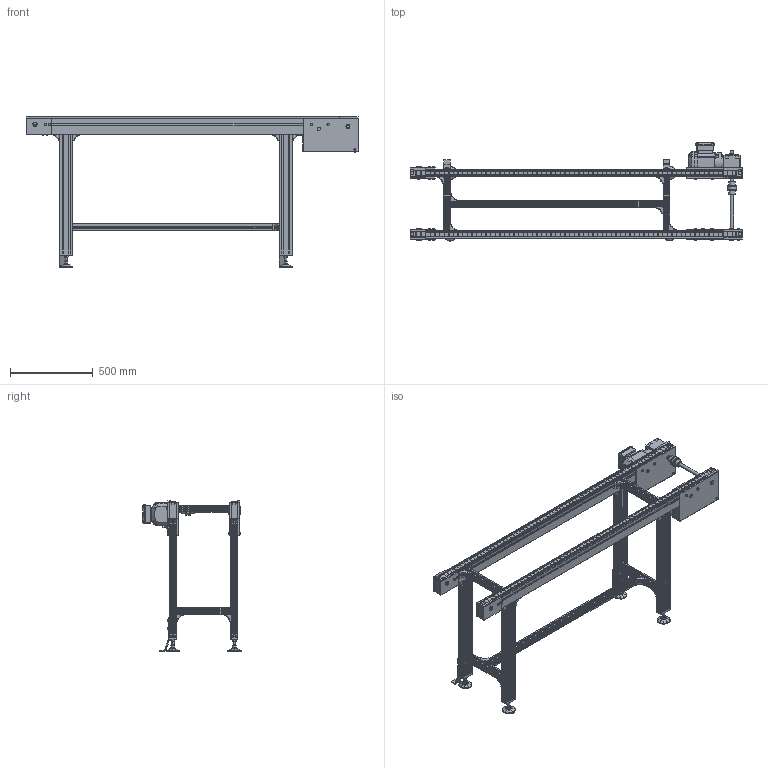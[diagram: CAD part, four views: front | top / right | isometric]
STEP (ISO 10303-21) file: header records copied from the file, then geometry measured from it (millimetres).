
FILE_DESCRIPTION(/* description */ (''),/* implementation_level */ '2;1');
FILE_NAME(/* name */ 'C:\Marketing\01_Versamove-SPU_STEP-Dateien-Homepage\VersamoveStandard\B400\STEP-Dateien\Flachplattenförderer_FPF-P-2045_B400_L2000.stp',/* time_stamp */ '2016-12-21T08:25:30+01:00',/* author */ ('herbert.engels'),/* organization */ (''),/* preprocessor_version */ 'ST-DEVELOPER v15.6',/* originating_system */ 'Autodesk Inventor 2015',/* authorisation */ '');
FILE_SCHEMA (('CONFIG_CONTROL_DESIGN'));
Products named in the file (1): Flachplattenförderer_FPF-P-2045_B400_L2000
Bounding box: 2000.5 x 590.57 x 905.3 mm (x, y, z)
Volume: 26796045.1 mm3; surface area: 6123589.5 mm2
Topology: 5 solids, 5 shells, 5892 faces, 16537 edges, 10575 vertices
Faces by surface type: plane 4030, cylinder 1334, cone 338, torus 123, sphere 50, bspline 17
Full cylindrical faces by diameter (mm): 2 x6, 6 x12, 6.647 x8, 7.323 x4, 8 x59, 8.7 x4, 9 x8, 10 x4, 10.066 x1, 11.4 x18, 12 x8, 13 x68, 13.6 x8, 14 x40, 15 x8, 18 x4, 19 x3, 19.77 x4, 20 x15, 25 x1, 25.05 x4, 28 x1, 30 x2, 40 x2, 53 x1, 54 x2, 56 x3, 79 x4
Entity records: 194866 total; most frequent: CARTESIAN_POINT 37931, ORIENTED_EDGE 31840, DIRECTION 30144, EDGE_CURVE 15913, LINE 11682, VECTOR 11682, VERTEX_POINT 10422, AXIS2_PLACEMENT_3D 9231
